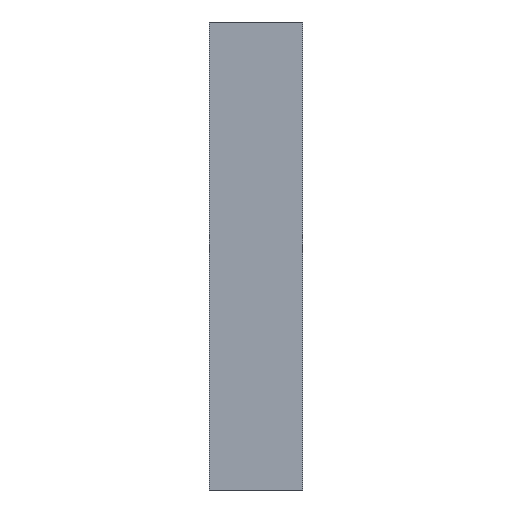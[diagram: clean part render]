
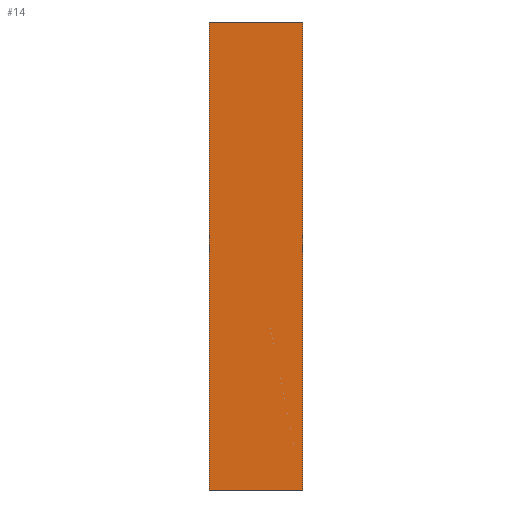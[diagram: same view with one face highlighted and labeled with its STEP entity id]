
A CAD part, front view. The second image highlights one B-rep face of the part: STEP entity #14.
In plain terms, the highlighted planar face has unit normal (0, -1, 0).
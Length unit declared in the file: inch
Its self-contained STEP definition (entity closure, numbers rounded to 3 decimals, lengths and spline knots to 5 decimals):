
#14=ADVANCED_FACE('',(#20),#88,.T.);
#20=FACE_OUTER_BOUND('',#26,.T.);
#26=EDGE_LOOP('',(#32,#33,#34,#35));
#32=ORIENTED_EDGE('',*,*,#56,.T.);
#33=ORIENTED_EDGE('',*,*,#65,.T.);
#34=ORIENTED_EDGE('',*,*,#60,.F.);
#35=ORIENTED_EDGE('',*,*,#64,.F.);
#56=EDGE_CURVE('',#80,#81,#68,.T.);
#60=EDGE_CURVE('',#84,#85,#72,.T.);
#64=EDGE_CURVE('',#80,#84,#76,.T.);
#65=EDGE_CURVE('',#81,#85,#77,.T.);
#68=B_SPLINE_CURVE_WITH_KNOTS('',1,(#217,#218),.UNSPECIFIED.,.F.,.F.,(2,
2),(0.,1.2),.UNSPECIFIED.);
#72=B_SPLINE_CURVE_WITH_KNOTS('',1,(#225,#226),.UNSPECIFIED.,.F.,.F.,(2,
2),(0.,1.2),.UNSPECIFIED.);
#76=B_SPLINE_CURVE_WITH_KNOTS('',1,(#233,#234),.UNSPECIFIED.,.F.,.F.,(2,
2),(0.,6.),.UNSPECIFIED.);
#77=B_SPLINE_CURVE_WITH_KNOTS('',1,(#235,#236),.UNSPECIFIED.,.F.,.F.,(2,
2),(0.,6.),.UNSPECIFIED.);
#80=VERTEX_POINT('',#209);
#81=VERTEX_POINT('',#210);
#84=VERTEX_POINT('',#213);
#85=VERTEX_POINT('',#214);
#88=PLANE('',#185);
#185=AXIS2_PLACEMENT_3D('',#203,#194,$);
#194=DIRECTION('',(0.,-1.,0.));
#203=CARTESIAN_POINT('',(0.,0.,0.));
#209=CARTESIAN_POINT('',(0.,0.,0.));
#210=CARTESIAN_POINT('',(1.2,0.,0.));
#213=CARTESIAN_POINT('',(0.,0.,6.));
#214=CARTESIAN_POINT('',(1.2,0.,6.));
#217=CARTESIAN_POINT('',(0.,0.,0.));
#218=CARTESIAN_POINT('',(1.2,0.,0.));
#225=CARTESIAN_POINT('',(0.,0.,6.));
#226=CARTESIAN_POINT('',(1.2,0.,6.));
#233=CARTESIAN_POINT('',(0.,0.,0.));
#234=CARTESIAN_POINT('',(0.,0.,6.));
#235=CARTESIAN_POINT('',(1.2,0.,0.));
#236=CARTESIAN_POINT('',(1.2,0.,6.));
